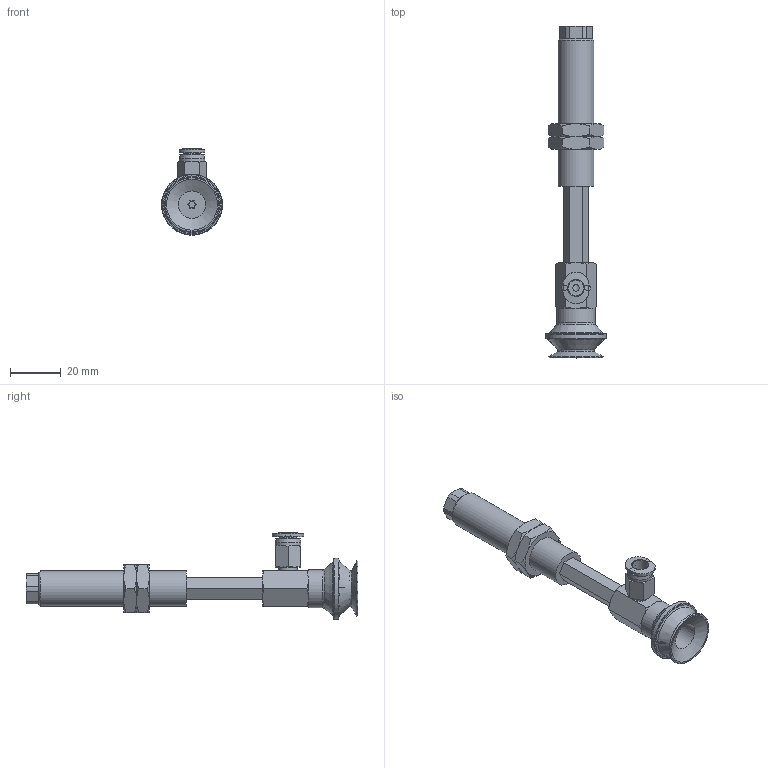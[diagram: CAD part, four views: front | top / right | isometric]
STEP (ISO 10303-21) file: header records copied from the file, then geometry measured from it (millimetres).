
FILE_DESCRIPTION(('STEP AP203'),'1');
FILE_NAME('-O.stp','2025-04-02T02:03:46',(' '),(' '),'Spatial InterOp 3D',' ',' ');
FILE_SCHEMA(('CONFIG_CONTROL_DESIGN'));
Length unit declared in the file: millimetre
Products named in the file (8): BNABPBYH-20-30-※-O; Adapter20-T-NAPB; CONNECTOR-20-30-PB; Nut-20-S-PB; NAPBTH-20-30-FBODY; NAPBTH-20-30-MBODY; BPBG-20-※; PC-C_06-M5
Assembly tree (8 placements, depth 2):
  BNABPBYH-20-30-※-O
    Adapter20-T-NAPB
    CONNECTOR-20-30-PB
    Nut-20-S-PB  x2
    NAPBTH-20-30-FBODY
    NAPBTH-20-30-MBODY
    BPBG-20-※
    PC-C_06-M5
Bounding box: 24 x 130.5 x 33.98 mm (x, y, z)
Volume: 18876.5 mm3; surface area: 15554.3 mm2
Topology: 7 solids, 10 shells, 216 faces, 472 edges, 290 vertices
Faces by surface type: plane 96, cone 72, cylinder 30, torus 11, bspline 4, revolution 3
Full cylindrical faces by diameter (mm): 2.5 x1, 3 x1, 4 x2, 4.134 x3, 4.6 x1, 5 x3, 7 x1, 7.4 x1, 8.2 x1, 10 x1, 10.8 x1, 11 x1, 12.917 x2, 14 x1, 15 x1, 24 x1
Entity records: 5832 total; most frequent: CARTESIAN_POINT 1531, DIRECTION 813, ORIENTED_EDGE 722, EDGE_CURVE 363, AXIS2_PLACEMENT_3D 335, EDGE_LOOP 272, VERTEX_POINT 251, FACE_OUTER_BOUND 163
